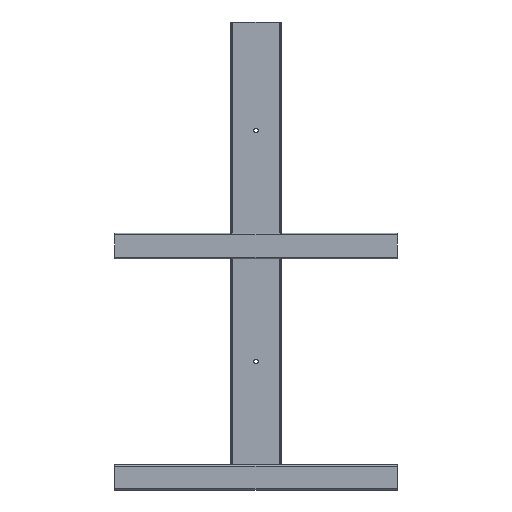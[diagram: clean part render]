
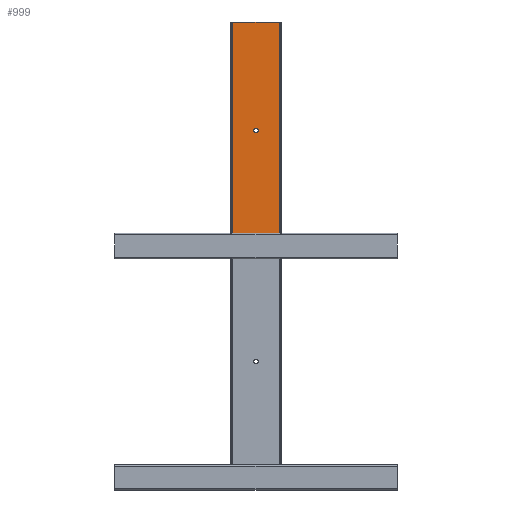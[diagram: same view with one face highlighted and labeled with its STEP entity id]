
A CAD part, front view. The second image highlights one B-rep face of the part: STEP entity #999.
In plain terms, the highlighted planar face has unit normal (0, -1, 0) as drawn and (0, 0, -1) by its records, which use the part's own axes.
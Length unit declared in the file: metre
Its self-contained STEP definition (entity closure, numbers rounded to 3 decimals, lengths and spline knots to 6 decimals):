
#537=CARTESIAN_POINT('',(-0.021,0.271464,-0.004));
#538=VERTEX_POINT('39452',#537);
#539=CARTESIAN_POINT('',(0.815,0.271464,-0.004));
#540=VERTEX_POINT('39454',#539);
#541=CARTESIAN_POINT('',(-0.021,0.271464,-0.004));
#542=DIRECTION('',(1.,0.,-0.));
#543=VECTOR('',#542,0.836);
#544=LINE('',#541,#543);
#545=EDGE_CURVE('39763',#538,#540,#544,.T.);
#809=CARTESIAN_POINT('',(0.815,0.455464,-0.004));
#810=VERTEX_POINT('39442',#809);
#811=CARTESIAN_POINT('',(-0.021,0.455464,-0.004));
#812=VERTEX_POINT('39450',#811);
#813=CARTESIAN_POINT('',(0.815,0.455464,-0.004));
#814=DIRECTION('',(-1.,0.,0.));
#815=VECTOR('',#814,0.836);
#816=LINE('',#813,#815);
#817=EDGE_CURVE('39745',#810,#812,#816,.T.);
#914=CARTESIAN_POINT('',(0.815,0.271464,-0.004));
#915=DIRECTION('',(0.,1.,0.));
#916=VECTOR('',#915,0.184);
#917=LINE('',#914,#916);
#918=EDGE_CURVE('39735',#540,#810,#917,.T.);
#929=CARTESIAN_POINT('',(-0.021,0.455464,-0.004));
#930=DIRECTION('',(0.,-1.,0.));
#931=VECTOR('',#930,0.184);
#932=LINE('',#929,#931);
#933=EDGE_CURVE('39723',#812,#538,#932,.T.);
#977=CARTESIAN_POINT('',(0.,0.,-0.004));
#978=DIRECTION('',(0.,0.,1.));
#979=DIRECTION('',(1.,-0.,0.));
#980=AXIS2_PLACEMENT_3D('',#977,#978,#979);
#981=PLANE('',#980);
#982=ORIENTED_EDGE('',*,*,#545,.F.);
#983=ORIENTED_EDGE('',*,*,#933,.F.);
#984=ORIENTED_EDGE('',*,*,#817,.F.);
#985=ORIENTED_EDGE('',*,*,#918,.F.);
#986=EDGE_LOOP('',(#982,#983,#984,#985));
#987=FACE_BOUND('',#986,.T.);
#988=CARTESIAN_POINT('',(0.41625,0.363464,-0.004));
#989=VERTEX_POINT('',#988);
#990=CARTESIAN_POINT('',(0.4075,0.363464,-0.004));
#991=DIRECTION('',(0.,0.,1.));
#992=DIRECTION('',(1.,-0.,0.));
#993=AXIS2_PLACEMENT_3D('',#990,#991,#992);
#994=CIRCLE('',#993,0.00875);
#995=EDGE_CURVE('39757',#989,#989,#994,.T.);
#996=ORIENTED_EDGE('',*,*,#995,.T.);
#997=EDGE_LOOP('',(#996));
#998=FACE_BOUND('',#997,.T.);
#999=ADVANCED_FACE('40836',(#987,#998),#981,.F.);
